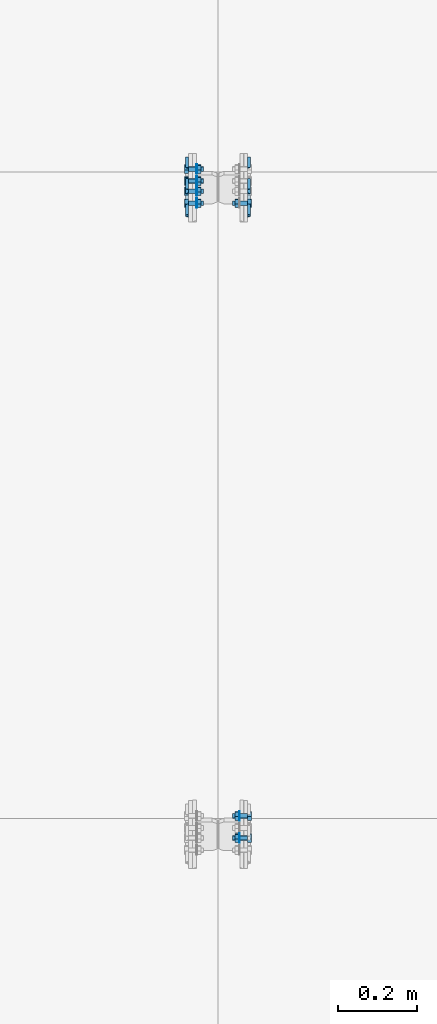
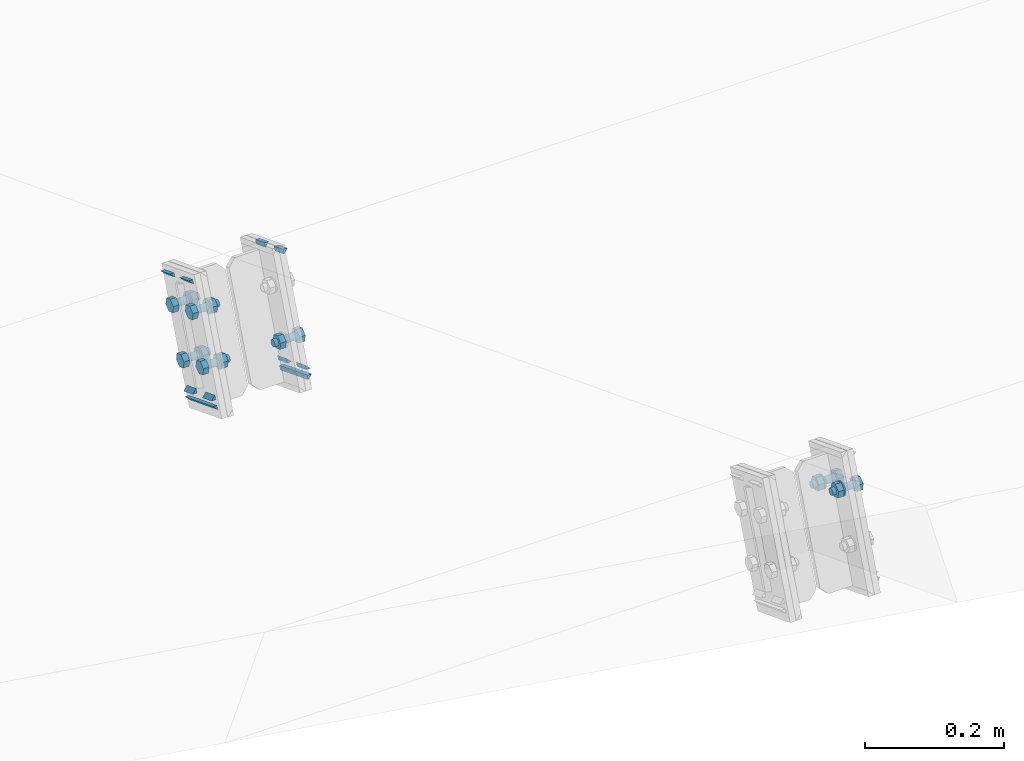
# One storey, part 57 of 72: 27 mechanical fasteners, 20 fasteners.
"""IFC4 building model written with IfcOpenShell, lengths in metres."""

from ifc_helpers import new_model, si_unit, frame, origin_with_axes, place, context, project, spatial, polyline, outline, extrude, type_object, element, save


model = new_model("IFC4")

# Units and contexts
model_context = context("Model", 3, precision=1e-05, world=origin_with_axes())
ifc_project = project(units=[si_unit("LENGTHUNIT", "METRE"), si_unit("AREAUNIT", "SQUARE_METRE"), si_unit("VOLUMEUNIT", "CUBIC_METRE"), si_unit("MASSUNIT", "GRAM", prefix="KILO"), si_unit("TIMEUNIT", "SECOND"), si_unit("PLANEANGLEUNIT", "RADIAN"), si_unit("SOLIDANGLEUNIT", "STERADIAN"), si_unit("THERMODYNAMICTEMPERATUREUNIT", "DEGREE_CELSIUS")], contexts=[model_context])

# Site, building, storey
placement_1 = place(None, origin_with_axes())
site = spatial("IfcSite", under=ifc_project, at=placement_1, Name="Italia", CompositionType="ELEMENT")
building = spatial("IfcBuilding", under=site, at=placement_1, Name="Uffici", CompositionType="ELEMENT")
storey = spatial("IfcBuildingStorey", under=building, at=placement_1, Name="Storey 0", CompositionType="ELEMENT", Elevation=0.0)

# Fasteners
fastener_type_1 = type_object("IfcFastenerType", Name="Collegamento -019_-018", PredefinedType="WELD")
placement_2 = place(placement_1, origin_with_axes())
fastener_1_placement = place(placement_2, origin_with_axes())
element("IfcFastener", 1, at=fastener_1_placement, inside=storey, type_object=fastener_type_1, Name="Collegamento -019_-018", context=model_context, shape_type="SweptSolid", body=[
    extrude(outline(polyline([(0.0, 0.0), (-0.00717354, 0.00695848), (0.0, 0.00695848), (0.0, 0.0)])), frame((9.38005, 3.30124, 5.94341), z_axis=(0.0, -0.93237841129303, 0.361483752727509), x_axis=(1.0, 0.0, 0.0)), (0.0, 0.0, 1.0), 0.0283002),
])
fastener_type_2 = type_object("IfcFastenerType", Name="Collegamento -019_-018", PredefinedType="WELD")
fastener_2_placement = place(placement_2, origin_with_axes())
element("IfcFastener", 2, at=fastener_2_placement, inside=storey, type_object=fastener_type_2, Name="Collegamento -019_-018", context=model_context, shape_type="SweptSolid", body=[
    extrude(outline(polyline([(0.0, 0.0), (0.00717354, -0.00695848), (0.0, -0.00695848), (0.0, 0.0)])), frame((9.38005, 3.2137, 5.79589), z_axis=(0.0, 0.932389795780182, -0.361454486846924), x_axis=(-1.0, 0.0, 0.0)), (0.0, 0.0, 1.0), 0.0282999),
])
fastener_type_3 = type_object("IfcFastenerType", Name="Collegamento -019_-018", PredefinedType="WELD")
fastener_3_placement = place(placement_2, origin_with_axes())
element("IfcFastener", 3, at=fastener_3_placement, inside=storey, type_object=fastener_type_3, Name="Collegamento -019_-018", context=model_context, shape_type="SweptSolid", body=[
    extrude(outline(polyline([(0.0, 0.0), (-0.00717354, 0.00695848), (0.0, 0.00695848), (0.0, 0.0)])), frame((9.38005, 3.23202, 5.76485), z_axis=(0.0, -0.932387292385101, 0.361460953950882), x_axis=(1.0, 0.0, 0.0)), (0.0, 0.0, 1.0), 0.0860998),
])
fastener_type_4 = type_object("IfcFastenerType", Name="Collegamento -019_-018", PredefinedType="WELD")
fastener_4_placement = place(placement_2, origin_with_axes())
element("IfcFastener", 4, at=fastener_4_placement, inside=storey, type_object=fastener_type_4, Name="Collegamento -019_-018", context=model_context, shape_type="SweptSolid", body=[
    extrude(outline(polyline([(0.0, 0.0), (0.00717354, -0.00695801), (0.0, -0.00695801), (0.0, 0.0)])), frame((9.38005, 3.1598, 5.81678), z_axis=(0.0, 0.932380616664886, -0.361478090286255), x_axis=(-1.0, 0.0, 0.0)), (0.0, 0.0, 1.0), 0.0283007),
])
fastener_type_5 = type_object("IfcFastenerType", Name="Collegamento -019_-018", PredefinedType="WELD")
fastener_5_placement = place(placement_2, origin_with_axes())
element("IfcFastener", 5, at=fastener_5_placement, inside=storey, type_object=fastener_type_5, Name="Collegamento -019_-018", context=model_context, shape_type="SweptSolid", body=[
    extrude(outline(polyline([(0.0, 0.0), (-0.00717354, 0.00695801), (0.0, 0.00695801), (0.0, 0.0)])), frame((9.38005, 3.24734, 5.9643), z_axis=(0.0, -0.932387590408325, 0.361460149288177), x_axis=(1.0, 0.0, 0.0)), (0.0, 0.0, 1.0), 0.0282994),
])
fastener_type_6 = type_object("IfcFastenerType", Name="Collegamento -019_-018", PredefinedType="WELD")
fastener_6_placement = place(placement_2, origin_with_axes())
element("IfcFastener", 6, at=fastener_6_placement, inside=storey, type_object=fastener_type_6, Name="Collegamento -019_-018", context=model_context, shape_type="SweptSolid", body=[
    extrude(outline(polyline([(0.0, 0.0), (-0.00717354, 0.00695848), (0.0, 0.00695848), (0.0, 0.0)])), frame((9.38005, 3.30124, 5.94341), z_axis=(0.0, -0.93237841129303, 0.361483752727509), x_axis=(1.0, 0.0, 0.0)), (0.0, 0.0, 1.0), 0.0283002),
])
fastener_type_7 = type_object("IfcFastenerType", Name="Collegamento -019_-018", PredefinedType="WELD")
fastener_7_placement = place(placement_2, origin_with_axes())
element("IfcFastener", 7, at=fastener_7_placement, inside=storey, type_object=fastener_type_7, Name="Collegamento -019_-018", context=model_context, shape_type="SweptSolid", body=[
    extrude(outline(polyline([(0.0, 0.0), (0.00717354, -0.00695848), (0.0, -0.00695848), (0.0, 0.0)])), frame((9.38005, 3.2137, 5.79589), z_axis=(0.0, 0.932389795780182, -0.361454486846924), x_axis=(-1.0, 0.0, 0.0)), (0.0, 0.0, 1.0), 0.0282999),
])
fastener_type_8 = type_object("IfcFastenerType", Name="Collegamento -019_-018", PredefinedType="WELD")
fastener_8_placement = place(placement_2, origin_with_axes())
element("IfcFastener", 8, at=fastener_8_placement, inside=storey, type_object=fastener_type_8, Name="Collegamento -019_-018", context=model_context, shape_type="SweptSolid", body=[
    extrude(outline(polyline([(0.0, 0.0), (-0.00717354, 0.00695848), (0.0, 0.00695848), (0.0, 0.0)])), frame((9.38005, 3.23202, 5.76485), z_axis=(0.0, -0.932387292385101, 0.361460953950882), x_axis=(1.0, 0.0, 0.0)), (0.0, 0.0, 1.0), 0.0860998),
])
fastener_type_9 = type_object("IfcFastenerType", Name="Collegamento -019_-018", PredefinedType="WELD")
fastener_9_placement = place(placement_2, origin_with_axes())
element("IfcFastener", 9, at=fastener_9_placement, inside=storey, type_object=fastener_type_9, Name="Collegamento -019_-018", context=model_context, shape_type="SweptSolid", body=[
    extrude(outline(polyline([(0.0, 0.0), (0.00717354, -0.00695801), (0.0, -0.00695801), (0.0, 0.0)])), frame((9.38005, 3.1598, 5.81678), z_axis=(0.0, 0.932380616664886, -0.361478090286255), x_axis=(-1.0, 0.0, 0.0)), (0.0, 0.0, 1.0), 0.0283007),
])
fastener_type_10 = type_object("IfcFastenerType", Name="Collegamento -019_-018", PredefinedType="WELD")
fastener_10_placement = place(placement_2, origin_with_axes())
element("IfcFastener", 10, at=fastener_10_placement, inside=storey, type_object=fastener_type_10, Name="Collegamento -019_-018", context=model_context, shape_type="SweptSolid", body=[
    extrude(outline(polyline([(0.0, 0.0), (-0.00717354, 0.00695801), (0.0, 0.00695801), (0.0, 0.0)])), frame((9.38005, 3.24734, 5.9643), z_axis=(0.0, -0.932387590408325, 0.361460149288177), x_axis=(1.0, 0.0, 0.0)), (0.0, 0.0, 1.0), 0.0282994),
])

# Mechanical fasteners
mechanical_fastener_type_1 = type_object("IfcMechanicalFastenerType", Name="Collegamento -019_-018", PredefinedType="BOLT")
mechanical_fastener_1_placement = place(placement_2, origin_with_axes())
element("IfcMechanicalFastener", 11, at=mechanical_fastener_1_placement, inside=storey, type_object=mechanical_fastener_type_1, Name="Collegamento -019_-018", NominalDiameter=0.0119999, context=model_context, shape_type="SweptSolid", body=[
    extrude(outline(polyline([(0.0, 0.0), (-0.0111887, -0.00433731), (-0.0205395, 0.00318336), (-0.0187016, 0.0150418), (-0.00751281, 0.0193796), (0.00183773, 0.0118585), (0.0, 0.0)])), frame((9.38, 3.23396, 5.82257), z_axis=(-1.0, 0.0, 0.0), x_axis=(0.0, -1.0, 0.0)), (0.0, 0.0, 1.0), 0.00959969),
])
mechanical_fastener_type_2 = type_object("IfcMechanicalFastenerType", Name="Collegamento -019_-018", PredefinedType="BOLT")
mechanical_fastener_2_placement = place(placement_2, origin_with_axes())
element("IfcMechanicalFastener", 12, at=mechanical_fastener_2_placement, inside=storey, type_object=mechanical_fastener_type_2, Name="Collegamento -019_-018", NominalDiameter=0.012, context=model_context, shape_type="SweptSolid", body=[
    extrude(outline(polyline([(0.0, 0.0), (-0.000204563, -0.00155306), (-0.000803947, -0.00299978), (-0.00175738, -0.00424242), (-0.00300002, -0.00519609), (-0.00444722, -0.00579548), (-0.00600004, -0.00600004), (-0.00755286, -0.00579548), (-0.00900006, -0.00519609), (-0.0102427, -0.00424242), (-0.0111961, -0.00299978), (-0.0117955, -0.00155306), (-0.0120001, 0.0), (-0.0117955, 0.00155306), (-0.0111961, 0.00299978), (-0.0102427, 0.00424242), (-0.00900006, 0.00519609), (-0.00755286, 0.00579548), (-0.00600004, 0.00600004), (-0.00444722, 0.00579548), (-0.00300002, 0.00519609), (-0.00175738, 0.00424242), (-0.000803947, 0.00299978), (-0.000204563, 0.00155306), (0.0, 0.0)])), frame((9.418, 3.23731, 5.83009), z_axis=(-1.0, 0.0, 0.0), x_axis=(0.0, -1.0, 0.0)), (0.0, 0.0, 1.0), 0.0380001),
])
mechanical_fastener_type_3 = type_object("IfcMechanicalFastenerType", Name="Collegamento -019_-018", PredefinedType="BOLT")
mechanical_fastener_3_placement = place(placement_2, origin_with_axes())
element("IfcMechanicalFastener", 13, at=mechanical_fastener_3_placement, inside=storey, type_object=mechanical_fastener_type_3, Name="Collegamento -019_-018", NominalDiameter=0.0119999, context=model_context, shape_type="SweptSolid", body=[
    extrude(outline(polyline([(0.0, 0.0), (-0.0111887, -0.00433731), (-0.0205395, 0.00318336), (-0.0187016, 0.0150418), (-0.00751281, 0.0193796), (0.00183773, 0.0118585), (0.0, 0.0)])), frame((9.4116, 3.23396, 5.82257), z_axis=(-1.0, 0.0, 0.0), x_axis=(0.0, -1.0, 0.0)), (0.0, 0.0, 1.0), 0.00959969),
])
mechanical_fastener_type_4 = type_object("IfcMechanicalFastenerType", Name="Collegamento -019_-018", PredefinedType="BOLT")
mechanical_fastener_4_placement = place(placement_2, origin_with_axes())
element("IfcMechanicalFastener", 14, at=mechanical_fastener_4_placement, inside=storey, type_object=mechanical_fastener_type_4, Name="Collegamento -019_-018", NominalDiameter=0.024, context=model_context, shape_type="SweptSolid", body=[
    extrude(outline(polyline([(0.0, 0.0), (-0.000408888, -0.00310564), (-0.00160789, -0.00600004), (-0.00351477, -0.00848532), (-0.00600004, -0.0103922), (-0.00889421, -0.011591), (-0.0120001, -0.0120001), (-0.015106, -0.011591), (-0.0180001, -0.0103922), (-0.0204854, -0.00848532), (-0.0223923, -0.00600004), (-0.0235913, -0.00310564), (-0.0240002, 0.0), (-0.0235913, 0.00310564), (-0.0223923, 0.00600004), (-0.0204854, 0.00848532), (-0.0180001, 0.0103922), (-0.015106, 0.011591), (-0.0120001, 0.0120001), (-0.00889421, 0.011591), (-0.00600004, 0.0103922), (-0.00351477, 0.00848532), (-0.00160789, 0.00600004), (-0.000408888, 0.00310564), (0.0, 0.0)])), frame((9.402, 3.23131, 5.83009), z_axis=(-1.0, 0.0, 0.0), x_axis=(0.0, -1.0, 0.0)), (0.0, 0.0, 1.0), 0.00199986),
])
mechanical_fastener_type_5 = type_object("IfcMechanicalFastenerType", Name="Collegamento -019_-018", PredefinedType="BOLT")
mechanical_fastener_5_placement = place(placement_2, origin_with_axes())
element("IfcMechanicalFastener", 15, at=mechanical_fastener_5_placement, inside=storey, type_object=mechanical_fastener_type_5, Name="Collegamento -019_-018", NominalDiameter=0.0119997, context=model_context, shape_type="SweptSolid", body=[
    extrude(outline(polyline([(0.0, 0.0), (-0.0111887, -0.00433779), (-0.0205395, 0.00318336), (-0.0187016, 0.0150418), (-0.00751281, 0.0193791), (0.00183773, 0.0118585), (0.0, 0.0)])), frame((9.38, 3.17802, 5.84426), z_axis=(-1.0, 0.0, 0.0), x_axis=(0.0, -1.0, 0.0)), (0.0, 0.0, 1.0), 0.00959969),
])
mechanical_fastener_type_6 = type_object("IfcMechanicalFastenerType", Name="Collegamento -019_-018", PredefinedType="BOLT")
mechanical_fastener_6_placement = place(placement_2, origin_with_axes())
element("IfcMechanicalFastener", 16, at=mechanical_fastener_6_placement, inside=storey, type_object=mechanical_fastener_type_6, Name="Collegamento -019_-018", NominalDiameter=0.012, context=model_context, shape_type="SweptSolid", body=[
    extrude(outline(polyline([(0.0, 0.0), (-0.000204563, -0.00155306), (-0.000803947, -0.00299978), (-0.00175738, -0.00424242), (-0.00300002, -0.00519609), (-0.00444722, -0.00579548), (-0.00600004, -0.00600004), (-0.00755286, -0.00579548), (-0.00900006, -0.00519609), (-0.0102427, -0.00424242), (-0.0111961, -0.00299978), (-0.0117955, -0.00155306), (-0.0120001, 0.0), (-0.0117955, 0.00155306), (-0.0111961, 0.00299978), (-0.0102427, 0.00424242), (-0.00900006, 0.00519609), (-0.00755286, 0.00579548), (-0.00600004, 0.00600004), (-0.00444722, 0.00579548), (-0.00300002, 0.00519609), (-0.00175738, 0.00424242), (-0.000803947, 0.00299978), (-0.000204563, 0.00155306), (0.0, 0.0)])), frame((9.418, 3.18137, 5.85178), z_axis=(-1.0, 0.0, 0.0), x_axis=(0.0, -1.0, 0.0)), (0.0, 0.0, 1.0), 0.0380001),
])
mechanical_fastener_type_7 = type_object("IfcMechanicalFastenerType", Name="Collegamento -019_-018", PredefinedType="BOLT")
mechanical_fastener_7_placement = place(placement_2, origin_with_axes())
element("IfcMechanicalFastener", 17, at=mechanical_fastener_7_placement, inside=storey, type_object=mechanical_fastener_type_7, Name="Collegamento -019_-018", NominalDiameter=0.0119997, context=model_context, shape_type="SweptSolid", body=[
    extrude(outline(polyline([(0.0, 0.0), (-0.0111887, -0.00433779), (-0.0205395, 0.00318336), (-0.0187016, 0.0150418), (-0.00751281, 0.0193791), (0.00183773, 0.0118585), (0.0, 0.0)])), frame((9.4116, 3.17802, 5.84426), z_axis=(-1.0, 0.0, 0.0), x_axis=(0.0, -1.0, 0.0)), (0.0, 0.0, 1.0), 0.00959969),
])
mechanical_fastener_type_8 = type_object("IfcMechanicalFastenerType", Name="Collegamento -019_-018", PredefinedType="BOLT")
mechanical_fastener_8_placement = place(placement_2, origin_with_axes())
element("IfcMechanicalFastener", 18, at=mechanical_fastener_8_placement, inside=storey, type_object=mechanical_fastener_type_8, Name="Collegamento -019_-018", NominalDiameter=0.024, context=model_context, shape_type="SweptSolid", body=[
    extrude(outline(polyline([(0.0, 0.0), (-0.000408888, -0.00310564), (-0.00160789, -0.00600004), (-0.00351477, -0.00848532), (-0.00600004, -0.0103922), (-0.00889421, -0.011591), (-0.0120001, -0.0120001), (-0.015106, -0.011591), (-0.0180001, -0.0103922), (-0.0204854, -0.00848532), (-0.0223923, -0.00600004), (-0.0235913, -0.00310564), (-0.0240002, 0.0), (-0.0235913, 0.00310564), (-0.0223923, 0.00600004), (-0.0204854, 0.00848532), (-0.0180001, 0.0103922), (-0.015106, 0.011591), (-0.0120001, 0.0120001), (-0.00889421, 0.011591), (-0.00600004, 0.0103922), (-0.00351477, 0.00848532), (-0.00160789, 0.00600004), (-0.000408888, 0.00310564), (0.0, 0.0)])), frame((9.402, 3.17537, 5.85178), z_axis=(-1.0, 0.0, 0.0), x_axis=(0.0, -1.0, 0.0)), (0.0, 0.0, 1.0), 0.00199986),
])
mechanical_fastener_type_9 = type_object("IfcMechanicalFastenerType", Name="Collegamento -019_-018", PredefinedType="BOLT")
mechanical_fastener_9_placement = place(placement_2, origin_with_axes())
element("IfcMechanicalFastener", 19, at=mechanical_fastener_9_placement, inside=storey, type_object=mechanical_fastener_type_9, Name="Collegamento -019_-018", NominalDiameter=0.0119997, context=model_context, shape_type="SweptSolid", body=[
    extrude(outline(polyline([(0.0, 0.0), (-0.0111887, -0.00433731), (-0.0205393, 0.00318336), (-0.0187016, 0.0150418), (-0.00751281, 0.0193796), (0.00183797, 0.0118585), (0.0, 0.0)])), frame((9.38, 3.26432, 5.90089), z_axis=(-1.0, 0.0, 0.0), x_axis=(0.0, -1.0, 0.0)), (0.0, 0.0, 1.0), 0.00959969),
])
mechanical_fastener_type_10 = type_object("IfcMechanicalFastenerType", Name="Collegamento -019_-018", PredefinedType="BOLT")
mechanical_fastener_10_placement = place(placement_2, origin_with_axes())
element("IfcMechanicalFastener", 20, at=mechanical_fastener_10_placement, inside=storey, type_object=mechanical_fastener_type_10, Name="Collegamento -019_-018", NominalDiameter=0.012, context=model_context, shape_type="SweptSolid", body=[
    extrude(outline(polyline([(0.0, 0.0), (-0.000204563, -0.00155306), (-0.000803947, -0.00299978), (-0.00175738, -0.00424242), (-0.00300002, -0.00519609), (-0.00444722, -0.00579548), (-0.00600004, -0.00600004), (-0.00755286, -0.00579548), (-0.00900006, -0.00519609), (-0.0102427, -0.00424242), (-0.0111961, -0.00299978), (-0.0117955, -0.00155306), (-0.0120001, 0.0), (-0.0117955, 0.00155306), (-0.0111961, 0.00299978), (-0.0102427, 0.00424242), (-0.00900006, 0.00519609), (-0.00755286, 0.00579548), (-0.00600004, 0.00600004), (-0.00444722, 0.00579548), (-0.00300002, 0.00519609), (-0.00175738, 0.00424242), (-0.000803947, 0.00299978), (-0.000204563, 0.00155306), (0.0, 0.0)])), frame((9.418, 3.26767, 5.90841), z_axis=(-1.0, 0.0, 0.0), x_axis=(0.0, -1.0, 0.0)), (0.0, 0.0, 1.0), 0.0380001),
])
mechanical_fastener_type_11 = type_object("IfcMechanicalFastenerType", Name="Collegamento -019_-018", PredefinedType="BOLT")
mechanical_fastener_11_placement = place(placement_2, origin_with_axes())
element("IfcMechanicalFastener", 21, at=mechanical_fastener_11_placement, inside=storey, type_object=mechanical_fastener_type_11, Name="Collegamento -019_-018", NominalDiameter=0.0119997, context=model_context, shape_type="SweptSolid", body=[
    extrude(outline(polyline([(0.0, 0.0), (-0.0111887, -0.00433731), (-0.0205393, 0.00318336), (-0.0187016, 0.0150418), (-0.00751281, 0.0193796), (0.00183797, 0.0118585), (0.0, 0.0)])), frame((9.4116, 3.26432, 5.90089), z_axis=(-1.0, 0.0, 0.0), x_axis=(0.0, -1.0, 0.0)), (0.0, 0.0, 1.0), 0.00959969),
])
mechanical_fastener_type_12 = type_object("IfcMechanicalFastenerType", Name="Collegamento -019_-018", PredefinedType="BOLT")
mechanical_fastener_12_placement = place(placement_2, origin_with_axes())
element("IfcMechanicalFastener", 22, at=mechanical_fastener_12_placement, inside=storey, type_object=mechanical_fastener_type_12, Name="Collegamento -019_-018", NominalDiameter=0.024, context=model_context, shape_type="SweptSolid", body=[
    extrude(outline(polyline([(0.0, 0.0), (-0.000408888, -0.00310564), (-0.00160789, -0.00600004), (-0.00351477, -0.00848532), (-0.00600004, -0.0103922), (-0.00889421, -0.011591), (-0.0120001, -0.0120001), (-0.015106, -0.011591), (-0.0180001, -0.0103922), (-0.0204854, -0.00848532), (-0.0223923, -0.00600004), (-0.0235913, -0.00310564), (-0.0240002, 0.0), (-0.0235913, 0.00310564), (-0.0223923, 0.00600004), (-0.0204854, 0.00848532), (-0.0180001, 0.0103922), (-0.015106, 0.011591), (-0.0120001, 0.0120001), (-0.00889421, 0.011591), (-0.00600004, 0.0103922), (-0.00351477, 0.00848532), (-0.00160789, 0.00600004), (-0.000408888, 0.00310564), (0.0, 0.0)])), frame((9.402, 3.26167, 5.90841), z_axis=(-1.0, 0.0, 0.0), x_axis=(0.0, -1.0, 0.0)), (0.0, 0.0, 1.0), 0.00199986),
])
mechanical_fastener_type_13 = type_object("IfcMechanicalFastenerType", Name="Collegamento -019_-018", PredefinedType="BOLT")
mechanical_fastener_13_placement = place(placement_2, origin_with_axes())
element("IfcMechanicalFastener", 23, at=mechanical_fastener_13_placement, inside=storey, type_object=mechanical_fastener_type_13, Name="Collegamento -019_-018", NominalDiameter=0.0119999, context=model_context, shape_type="SweptSolid", body=[
    extrude(outline(polyline([(0.0, 0.0), (-0.0111887, -0.00433779), (-0.0205393, 0.00318336), (-0.0187016, 0.0150418), (-0.00751281, 0.0193791), (0.00183797, 0.0118585), (0.0, 0.0)])), frame((9.38, 3.20838, 5.92258), z_axis=(-1.0, 0.0, 0.0), x_axis=(0.0, -1.0, 0.0)), (0.0, 0.0, 1.0), 0.00959969),
])
mechanical_fastener_type_14 = type_object("IfcMechanicalFastenerType", Name="Collegamento -019_-018", PredefinedType="BOLT")
mechanical_fastener_14_placement = place(placement_2, origin_with_axes())
element("IfcMechanicalFastener", 24, at=mechanical_fastener_14_placement, inside=storey, type_object=mechanical_fastener_type_14, Name="Collegamento -019_-018", NominalDiameter=0.012, context=model_context, shape_type="SweptSolid", body=[
    extrude(outline(polyline([(0.0, 0.0), (-0.000204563, -0.00155306), (-0.000803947, -0.00299978), (-0.00175738, -0.00424242), (-0.00300002, -0.00519609), (-0.00444722, -0.00579548), (-0.00600004, -0.00600004), (-0.00755286, -0.00579548), (-0.00900006, -0.00519609), (-0.0102427, -0.00424242), (-0.0111961, -0.00299978), (-0.0117955, -0.00155306), (-0.0120001, 0.0), (-0.0117955, 0.00155306), (-0.0111961, 0.00299978), (-0.0102427, 0.00424242), (-0.00900006, 0.00519609), (-0.00755286, 0.00579548), (-0.00600004, 0.00600004), (-0.00444722, 0.00579548), (-0.00300002, 0.00519609), (-0.00175738, 0.00424242), (-0.000803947, 0.00299978), (-0.000204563, 0.00155306), (0.0, 0.0)])), frame((9.418, 3.21173, 5.9301), z_axis=(-1.0, 0.0, 0.0), x_axis=(0.0, -1.0, 0.0)), (0.0, 0.0, 1.0), 0.0380001),
])
mechanical_fastener_type_15 = type_object("IfcMechanicalFastenerType", Name="Collegamento -019_-018", PredefinedType="BOLT")
mechanical_fastener_15_placement = place(placement_2, origin_with_axes())
element("IfcMechanicalFastener", 25, at=mechanical_fastener_15_placement, inside=storey, type_object=mechanical_fastener_type_15, Name="Collegamento -019_-018", NominalDiameter=0.0119999, context=model_context, shape_type="SweptSolid", body=[
    extrude(outline(polyline([(0.0, 0.0), (-0.0111887, -0.00433779), (-0.0205393, 0.00318336), (-0.0187016, 0.0150418), (-0.00751281, 0.0193791), (0.00183797, 0.0118585), (0.0, 0.0)])), frame((9.4116, 3.20838, 5.92258), z_axis=(-1.0, 0.0, 0.0), x_axis=(0.0, -1.0, 0.0)), (0.0, 0.0, 1.0), 0.00959969),
])
mechanical_fastener_type_16 = type_object("IfcMechanicalFastenerType", Name="Collegamento -019_-018", PredefinedType="BOLT")
mechanical_fastener_16_placement = place(placement_2, origin_with_axes())
element("IfcMechanicalFastener", 26, at=mechanical_fastener_16_placement, inside=storey, type_object=mechanical_fastener_type_16, Name="Collegamento -019_-018", NominalDiameter=0.024, context=model_context, shape_type="SweptSolid", body=[
    extrude(outline(polyline([(0.0, 0.0), (-0.000408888, -0.00310564), (-0.00160789, -0.00600004), (-0.00351477, -0.00848532), (-0.00600004, -0.0103922), (-0.00889421, -0.011591), (-0.0120001, -0.0120001), (-0.015106, -0.011591), (-0.0180001, -0.0103922), (-0.0204854, -0.00848532), (-0.0223923, -0.00600004), (-0.0235913, -0.00310564), (-0.0240002, 0.0), (-0.0235913, 0.00310564), (-0.0223923, 0.00600004), (-0.0204854, 0.00848532), (-0.0180001, 0.0103922), (-0.015106, 0.011591), (-0.0120001, 0.0120001), (-0.00889421, 0.011591), (-0.00600004, 0.0103922), (-0.00351477, 0.00848532), (-0.00160789, 0.00600004), (-0.000408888, 0.00310564), (0.0, 0.0)])), frame((9.402, 3.20573, 5.9301), z_axis=(-1.0, 0.0, 0.0), x_axis=(0.0, -1.0, 0.0)), (0.0, 0.0, 1.0), 0.00199986),
])

# Fasteners
fastener_type_11 = type_object("IfcFastenerType", Name="Collegamento -019_-020", PredefinedType="WELD")
fastener_11_placement = place(placement_2, origin_with_axes())
element("IfcFastener", 27, at=fastener_11_placement, inside=storey, type_object=fastener_type_11, Name="Collegamento -019_-020", context=model_context, shape_type="SweptSolid", body=[
    extrude(outline(polyline([(0.0, 0.0), (-0.00717354, 0.00695801), (0.0, 0.00695801), (0.0, 0.0)])), frame((9.52995, 3.27485, 5.95364), z_axis=(0.0, 0.93237841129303, -0.361483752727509), x_axis=(-1.0, 0.0, 0.0)), (0.0, 0.0, 1.0), 0.0283002),
])
fastener_type_12 = type_object("IfcFastenerType", Name="Collegamento -019_-020", PredefinedType="WELD")
fastener_12_placement = place(placement_2, origin_with_axes())
element("IfcFastener", 28, at=fastener_12_placement, inside=storey, type_object=fastener_type_12, Name="Collegamento -019_-020", context=model_context, shape_type="SweptSolid", body=[
    extrude(outline(polyline([(0.0, 0.0), (0.00717354, -0.00695801), (0.0, -0.00695801), (0.0, 0.0)])), frame((9.52995, 3.24008, 5.78566), z_axis=(0.0, -0.932389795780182, 0.361454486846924), x_axis=(1.0, 0.0, 0.0)), (0.0, 0.0, 1.0), 0.0282999),
])
fastener_type_13 = type_object("IfcFastenerType", Name="Collegamento -019_-020", PredefinedType="WELD")
fastener_13_placement = place(placement_2, origin_with_axes())
element("IfcFastener", 29, at=fastener_13_placement, inside=storey, type_object=fastener_type_13, Name="Collegamento -019_-020", context=model_context, shape_type="SweptSolid", body=[
    extrude(outline(polyline([(0.0, 0.0), (-0.00717354, 0.00695848), (0.0, 0.00695848), (0.0, 0.0)])), frame((9.52995, 3.15174, 5.79598), z_axis=(0.0, 0.932387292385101, -0.361460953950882), x_axis=(-1.0, 0.0, 0.0)), (0.0, 0.0, 1.0), 0.0860998),
])
fastener_type_14 = type_object("IfcFastenerType", Name="Collegamento -019_-020", PredefinedType="WELD")
fastener_14_placement = place(placement_2, origin_with_axes())
element("IfcFastener", 30, at=fastener_14_placement, inside=storey, type_object=fastener_type_14, Name="Collegamento -019_-020", context=model_context, shape_type="SweptSolid", body=[
    extrude(outline(polyline([(0.0, 0.0), (0.00717354, -0.00695753), (0.0, -0.00695753), (0.0, 0.0)])), frame((9.52995, 3.18619, 5.80655), z_axis=(0.0, -0.932380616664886, 0.361478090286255), x_axis=(1.0, 0.0, 0.0)), (0.0, 0.0, 1.0), 0.0283007),
])
fastener_type_15 = type_object("IfcFastenerType", Name="Collegamento -019_-020", PredefinedType="WELD")
fastener_15_placement = place(placement_2, origin_with_axes())
element("IfcFastener", 31, at=fastener_15_placement, inside=storey, type_object=fastener_type_15, Name="Collegamento -019_-020", context=model_context, shape_type="SweptSolid", body=[
    extrude(outline(polyline([(0.0, 0.0), (-0.00717354, 0.00695801), (0.0, 0.00695801), (0.0, 0.0)])), frame((9.52995, 3.22096, 5.97453), z_axis=(0.0, 0.932388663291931, -0.361457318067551), x_axis=(-1.0, 0.0, 0.0)), (0.0, 0.0, 1.0), 0.0282996),
])
fastener_type_16 = type_object("IfcFastenerType", Name="Collegamento -019_-020", PredefinedType="WELD")
fastener_16_placement = place(placement_2, origin_with_axes())
element("IfcFastener", 32, at=fastener_16_placement, inside=storey, type_object=fastener_type_16, Name="Collegamento -019_-020", context=model_context, shape_type="SweptSolid", body=[
    extrude(outline(polyline([(0.0, 0.0), (-0.00717354, 0.00695801), (0.0, 0.00695801), (0.0, 0.0)])), frame((9.52995, 3.27485, 5.95364), z_axis=(0.0, 0.93237841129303, -0.361483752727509), x_axis=(-1.0, 0.0, 0.0)), (0.0, 0.0, 1.0), 0.0283002),
])
fastener_type_17 = type_object("IfcFastenerType", Name="Collegamento -019_-020", PredefinedType="WELD")
fastener_17_placement = place(placement_2, origin_with_axes())
element("IfcFastener", 33, at=fastener_17_placement, inside=storey, type_object=fastener_type_17, Name="Collegamento -019_-020", context=model_context, shape_type="SweptSolid", body=[
    extrude(outline(polyline([(0.0, 0.0), (0.00717354, -0.00695801), (0.0, -0.00695801), (0.0, 0.0)])), frame((9.52995, 3.24008, 5.78566), z_axis=(0.0, -0.932389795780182, 0.361454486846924), x_axis=(1.0, 0.0, 0.0)), (0.0, 0.0, 1.0), 0.0282999),
])
fastener_type_18 = type_object("IfcFastenerType", Name="Collegamento -019_-020", PredefinedType="WELD")
fastener_18_placement = place(placement_2, origin_with_axes())
element("IfcFastener", 34, at=fastener_18_placement, inside=storey, type_object=fastener_type_18, Name="Collegamento -019_-020", context=model_context, shape_type="SweptSolid", body=[
    extrude(outline(polyline([(0.0, 0.0), (-0.00717354, 0.00695848), (0.0, 0.00695848), (0.0, 0.0)])), frame((9.52995, 3.15174, 5.79598), z_axis=(0.0, 0.932387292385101, -0.361460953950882), x_axis=(-1.0, 0.0, 0.0)), (0.0, 0.0, 1.0), 0.0860998),
])
fastener_type_19 = type_object("IfcFastenerType", Name="Collegamento -019_-020", PredefinedType="WELD")
fastener_19_placement = place(placement_2, origin_with_axes())
element("IfcFastener", 35, at=fastener_19_placement, inside=storey, type_object=fastener_type_19, Name="Collegamento -019_-020", context=model_context, shape_type="SweptSolid", body=[
    extrude(outline(polyline([(0.0, 0.0), (0.00717354, -0.00695753), (0.0, -0.00695753), (0.0, 0.0)])), frame((9.52995, 3.18619, 5.80655), z_axis=(0.0, -0.932380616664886, 0.361478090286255), x_axis=(1.0, 0.0, 0.0)), (0.0, 0.0, 1.0), 0.0283007),
])
fastener_type_20 = type_object("IfcFastenerType", Name="Collegamento -019_-020", PredefinedType="WELD")
fastener_20_placement = place(placement_2, origin_with_axes())
element("IfcFastener", 36, at=fastener_20_placement, inside=storey, type_object=fastener_type_20, Name="Collegamento -019_-020", context=model_context, shape_type="SweptSolid", body=[
    extrude(outline(polyline([(0.0, 0.0), (-0.00717354, 0.00695801), (0.0, 0.00695801), (0.0, 0.0)])), frame((9.52995, 3.22096, 5.97453), z_axis=(0.0, 0.932388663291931, -0.361457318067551), x_axis=(-1.0, 0.0, 0.0)), (0.0, 0.0, 1.0), 0.0282996),
])

# Mechanical fasteners
mechanical_fastener_type_17 = type_object("IfcMechanicalFastenerType", Name="Collegamento -019_-020", PredefinedType="BOLT")
mechanical_fastener_17_placement = place(placement_2, origin_with_axes())
element("IfcMechanicalFastener", 37, at=mechanical_fastener_17_placement, inside=storey, type_object=mechanical_fastener_type_17, Name="Collegamento -019_-020", NominalDiameter=0.0119997, context=model_context, shape_type="SweptSolid", body=[
    extrude(outline(polyline([(0.0, 0.0), (-0.0111887, 0.00433779), (-0.0130265, 0.0161963), (-0.00367594, 0.0237169), (0.00751281, 0.0193796), (0.00935078, 0.00752115), (0.0, 0.0)])), frame((9.53, 3.18921, 5.83992), z_axis=(1.0, 0.0, 0.0), x_axis=(0.0, 1.0, 0.0)), (0.0, 0.0, 1.0), 0.00959969),
])
mechanical_fastener_type_18 = type_object("IfcMechanicalFastenerType", Name="Collegamento -019_-020", PredefinedType="BOLT")
mechanical_fastener_18_placement = place(placement_2, origin_with_axes())
element("IfcMechanicalFastener", 38, at=mechanical_fastener_18_placement, inside=storey, type_object=mechanical_fastener_type_18, Name="Collegamento -019_-020", NominalDiameter=0.012, context=model_context, shape_type="SweptSolid", body=[
    extrude(outline(polyline([(0.0, 0.0), (-0.000204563, -0.00155306), (-0.000803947, -0.00299978), (-0.00175738, -0.00424242), (-0.00300002, -0.00519609), (-0.00444722, -0.00579548), (-0.00600004, -0.00600004), (-0.00755286, -0.00579548), (-0.00900006, -0.00519609), (-0.0102427, -0.00424242), (-0.0111961, -0.00299978), (-0.0117955, -0.00155306), (-0.0120001, 0.0), (-0.0117955, 0.00155306), (-0.0111961, 0.00299978), (-0.0102427, 0.00424242), (-0.00900006, 0.00519609), (-0.00755286, 0.00579548), (-0.00600004, 0.00600004), (-0.00444722, 0.00579548), (-0.00300002, 0.00519609), (-0.00175738, 0.00424242), (-0.000803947, 0.00299978), (-0.000204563, 0.00155306), (0.0, 0.0)])), frame((9.492, 3.19337, 5.85178), z_axis=(1.0, 0.0, 0.0), x_axis=(0.0, 1.0, 0.0)), (0.0, 0.0, 1.0), 0.0380001),
])
mechanical_fastener_type_19 = type_object("IfcMechanicalFastenerType", Name="Collegamento -019_-020", PredefinedType="BOLT")
mechanical_fastener_19_placement = place(placement_2, origin_with_axes())
element("IfcMechanicalFastener", 39, at=mechanical_fastener_19_placement, inside=storey, type_object=mechanical_fastener_type_19, Name="Collegamento -019_-020", NominalDiameter=0.0119997, context=model_context, shape_type="SweptSolid", body=[
    extrude(outline(polyline([(0.0, 0.0), (-0.0111887, 0.00433779), (-0.0130265, 0.0161963), (-0.00367594, 0.0237169), (0.00751281, 0.0193796), (0.00935078, 0.00752115), (0.0, 0.0)])), frame((9.4984, 3.18921, 5.83992), z_axis=(1.0, 0.0, 0.0), x_axis=(0.0, 1.0, 0.0)), (0.0, 0.0, 1.0), 0.00959969),
])
mechanical_fastener_type_20 = type_object("IfcMechanicalFastenerType", Name="Collegamento -029_-030", PredefinedType="BOLT")
mechanical_fastener_20_placement = place(placement_2, origin_with_axes())
element("IfcMechanicalFastener", 40, at=mechanical_fastener_20_placement, inside=storey, type_object=mechanical_fastener_type_20, Name="Collegamento -029_-030", NominalDiameter=0.0119998, context=model_context, shape_type="SweptSolid", body=[
    extrude(outline(polyline([(0.0, 0.0), (-0.0111886, 0.00433779), (-0.0130265, 0.0161963), (-0.00367582, 0.0237169), (0.00751293, 0.0193796), (0.00935078, 0.00752115), (0.0, 0.0)])), frame((9.53, 1.58623, 6.55157), z_axis=(1.0, 0.0, 0.0), x_axis=(0.0, 1.0, 0.0)), (0.0, 0.0, 1.0), 0.00959969),
])
mechanical_fastener_type_21 = type_object("IfcMechanicalFastenerType", Name="Collegamento -029_-030", PredefinedType="BOLT")
mechanical_fastener_21_placement = place(placement_2, origin_with_axes())
element("IfcMechanicalFastener", 41, at=mechanical_fastener_21_placement, inside=storey, type_object=mechanical_fastener_type_21, Name="Collegamento -029_-030", NominalDiameter=0.012, context=model_context, shape_type="SweptSolid", body=[
    extrude(outline(polyline([(0.0, 0.0), (-0.000204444, -0.00155306), (-0.000803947, -0.00299978), (-0.00175738, -0.00424242), (-0.00300002, -0.00519609), (-0.0044471, -0.00579548), (-0.00600004, -0.00600004), (-0.00755298, -0.00579548), (-0.00900006, -0.00519609), (-0.0102427, -0.00424242), (-0.0111961, -0.00299978), (-0.0117956, -0.00155306), (-0.0120001, 0.0), (-0.0117956, 0.00155306), (-0.0111961, 0.00299978), (-0.0102427, 0.00424242), (-0.00900006, 0.00519609), (-0.00755298, 0.00579548), (-0.00600004, 0.00600004), (-0.0044471, 0.00579548), (-0.00300002, 0.00519609), (-0.00175738, 0.00424242), (-0.000803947, 0.00299978), (-0.000204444, 0.00155306), (0.0, 0.0)])), frame((9.492, 1.5904, 6.56343), z_axis=(1.0, 0.0, 0.0), x_axis=(0.0, 1.0, 0.0)), (0.0, 0.0, 1.0), 0.0380001),
])
mechanical_fastener_type_22 = type_object("IfcMechanicalFastenerType", Name="Collegamento -029_-030", PredefinedType="BOLT")
mechanical_fastener_22_placement = place(placement_2, origin_with_axes())
element("IfcMechanicalFastener", 42, at=mechanical_fastener_22_placement, inside=storey, type_object=mechanical_fastener_type_22, Name="Collegamento -029_-030", NominalDiameter=0.0119998, context=model_context, shape_type="SweptSolid", body=[
    extrude(outline(polyline([(0.0, 0.0), (-0.0111886, 0.00433779), (-0.0130265, 0.0161963), (-0.00367582, 0.0237169), (0.00751293, 0.0193796), (0.00935078, 0.00752115), (0.0, 0.0)])), frame((9.4984, 1.58623, 6.55157), z_axis=(1.0, 0.0, 0.0), x_axis=(0.0, 1.0, 0.0)), (0.0, 0.0, 1.0), 0.00959969),
])
mechanical_fastener_type_23 = type_object("IfcMechanicalFastenerType", Name="Collegamento -029_-030", PredefinedType="BOLT")
mechanical_fastener_23_placement = place(placement_2, origin_with_axes())
element("IfcMechanicalFastener", 43, at=mechanical_fastener_23_placement, inside=storey, type_object=mechanical_fastener_type_23, Name="Collegamento -029_-030", NominalDiameter=0.024, context=model_context, shape_type="SweptSolid", body=[
    extrude(outline(polyline([(0.0, 0.0), (-0.000408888, -0.00310564), (-0.00160766, -0.00600004), (-0.00351465, -0.00848532), (-0.00599992, -0.0103922), (-0.00889409, -0.011591), (-0.012, -0.0120001), (-0.0151058, -0.011591), (-0.018, -0.0103922), (-0.0204853, -0.00848532), (-0.0223923, -0.00600004), (-0.023591, -0.00310564), (-0.0239999, 0.0), (-0.023591, 0.00310564), (-0.0223923, 0.00600004), (-0.0204853, 0.00848532), (-0.018, 0.0103922), (-0.0151058, 0.011591), (-0.012, 0.0120001), (-0.00889409, 0.011591), (-0.00599992, 0.0103922), (-0.00351465, 0.00848532), (-0.00160766, 0.00600004), (-0.000408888, 0.00310564), (0.0, 0.0)])), frame((9.508, 1.5964, 6.56343), z_axis=(1.0, 0.0, 0.0), x_axis=(0.0, 1.0, 0.0)), (0.0, 0.0, 1.0), 0.00199986),
])
mechanical_fastener_type_24 = type_object("IfcMechanicalFastenerType", Name="Collegamento -029_-030", PredefinedType="BOLT")
mechanical_fastener_24_placement = place(placement_2, origin_with_axes())
element("IfcMechanicalFastener", 44, at=mechanical_fastener_24_placement, inside=storey, type_object=mechanical_fastener_type_24, Name="Collegamento -029_-030", NominalDiameter=0.0119999, context=model_context, shape_type="SweptSolid", body=[
    extrude(outline(polyline([(0.0, 0.0), (-0.0111886, 0.00433731), (-0.0130265, 0.0161958), (-0.00367582, 0.0237169), (0.00751281, 0.0193791), (0.00935078, 0.00752068), (0.0, 0.0)])), frame((9.53, 1.64218, 6.52989), z_axis=(1.0, 0.0, 0.0), x_axis=(0.0, 1.0, 0.0)), (0.0, 0.0, 1.0), 0.00959969),
])
mechanical_fastener_type_25 = type_object("IfcMechanicalFastenerType", Name="Collegamento -029_-030", PredefinedType="BOLT")
mechanical_fastener_25_placement = place(placement_2, origin_with_axes())
element("IfcMechanicalFastener", 45, at=mechanical_fastener_25_placement, inside=storey, type_object=mechanical_fastener_type_25, Name="Collegamento -029_-030", NominalDiameter=0.012, context=model_context, shape_type="SweptSolid", body=[
    extrude(outline(polyline([(0.0, 0.0), (-0.000204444, -0.00155306), (-0.000803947, -0.00299978), (-0.00175738, -0.00424242), (-0.00300002, -0.00519609), (-0.0044471, -0.00579548), (-0.00600004, -0.00600004), (-0.00755298, -0.00579548), (-0.00900006, -0.00519609), (-0.0102427, -0.00424242), (-0.0111961, -0.00299978), (-0.0117956, -0.00155306), (-0.0120001, 0.0), (-0.0117956, 0.00155306), (-0.0111961, 0.00299978), (-0.0102427, 0.00424242), (-0.00900006, 0.00519609), (-0.00755298, 0.00579548), (-0.00600004, 0.00600004), (-0.0044471, 0.00579548), (-0.00300002, 0.00519609), (-0.00175738, 0.00424242), (-0.000803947, 0.00299978), (-0.000204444, 0.00155306), (0.0, 0.0)])), frame((9.492, 1.64634, 6.54174), z_axis=(1.0, 0.0, 0.0), x_axis=(0.0, 1.0, 0.0)), (0.0, 0.0, 1.0), 0.0380001),
])
mechanical_fastener_type_26 = type_object("IfcMechanicalFastenerType", Name="Collegamento -029_-030", PredefinedType="BOLT")
mechanical_fastener_26_placement = place(placement_2, origin_with_axes())
element("IfcMechanicalFastener", 46, at=mechanical_fastener_26_placement, inside=storey, type_object=mechanical_fastener_type_26, Name="Collegamento -029_-030", NominalDiameter=0.0119999, context=model_context, shape_type="SweptSolid", body=[
    extrude(outline(polyline([(0.0, 0.0), (-0.0111886, 0.00433731), (-0.0130265, 0.0161958), (-0.00367582, 0.0237169), (0.00751281, 0.0193791), (0.00935078, 0.00752068), (0.0, 0.0)])), frame((9.4984, 1.64218, 6.52989), z_axis=(1.0, 0.0, 0.0), x_axis=(0.0, 1.0, 0.0)), (0.0, 0.0, 1.0), 0.00959969),
])
mechanical_fastener_type_27 = type_object("IfcMechanicalFastenerType", Name="Collegamento -029_-030", PredefinedType="BOLT")
mechanical_fastener_27_placement = place(placement_2, origin_with_axes())
element("IfcMechanicalFastener", 47, at=mechanical_fastener_27_placement, inside=storey, type_object=mechanical_fastener_type_27, Name="Collegamento -029_-030", NominalDiameter=0.024, context=model_context, shape_type="SweptSolid", body=[
    extrude(outline(polyline([(0.0, 0.0), (-0.000408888, -0.00310564), (-0.00160766, -0.00600004), (-0.00351465, -0.00848532), (-0.00599992, -0.0103922), (-0.00889409, -0.011591), (-0.012, -0.0120001), (-0.0151058, -0.011591), (-0.018, -0.0103922), (-0.0204853, -0.00848532), (-0.0223923, -0.00600004), (-0.023591, -0.00310564), (-0.0239999, 0.0), (-0.023591, 0.00310564), (-0.0223923, 0.00600004), (-0.0204853, 0.00848532), (-0.018, 0.0103922), (-0.0151058, 0.011591), (-0.012, 0.0120001), (-0.00889409, 0.011591), (-0.00599992, 0.0103922), (-0.00351465, 0.00848532), (-0.00160766, 0.00600004), (-0.000408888, 0.00310564), (0.0, 0.0)])), frame((9.508, 1.65234, 6.54174), z_axis=(1.0, 0.0, 0.0), x_axis=(0.0, 1.0, 0.0)), (0.0, 0.0, 1.0), 0.00199986),
])

save(model, "model.ifc")
